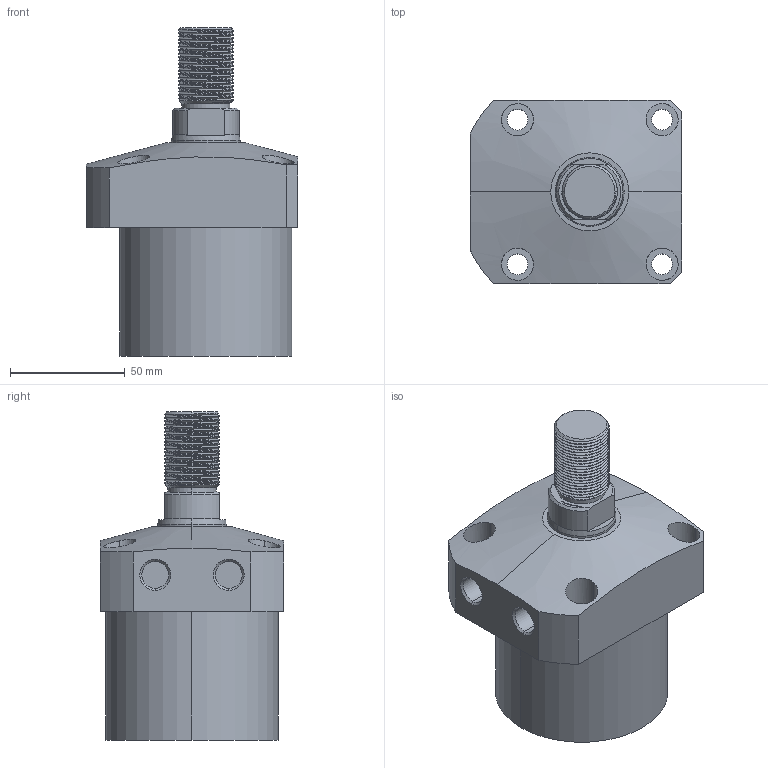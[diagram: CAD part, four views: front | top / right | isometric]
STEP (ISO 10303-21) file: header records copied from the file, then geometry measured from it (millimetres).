
FILE_DESCRIPTION (( 'STEP AP203' ), '1' );
FILE_NAME ('CLL-075CT-040.STEP', '2020-01-08T11:51:44', ( '' ), ( '' ), 'SwSTEP 2.0', 'SolidWorks 2015', '' );
FILE_SCHEMA (( 'CONFIG_CONTROL_DESIGN' ));
Length unit declared in the file: millimetre
Products named in the file (1): CLL-075CT-040
Bounding box: 92 x 80 x 143 mm (x, y, z)
Volume: 490556.1 mm3; surface area: 47613.6 mm2
Topology: 1 solids, 1 shells, 122 faces, 312 edges, 204 vertices
Faces by surface type: cylinder 77, plane 25, cone 16, bspline 4
Entity records: 7972 total; most frequent: CARTESIAN_POINT 5176, ORIENTED_EDGE 624, DIRECTION 511, EDGE_CURVE 312, VERTEX_POINT 204, AXIS2_PLACEMENT_3D 199, EDGE_LOOP 142, ADVANCED_FACE 122
